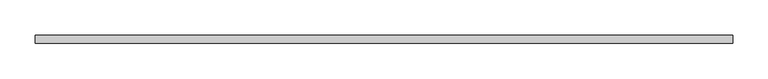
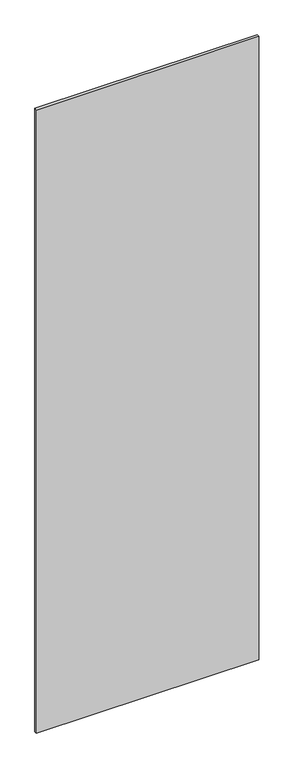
"""IFC4 building model written with IfcOpenShell, lengths in millimetres: plate geometry, VERTI AERO - prosklená výplň : Prosklená výplň."""

from ifc_helpers import new_model, si_unit, origin, origin_with_axes, place, context, project, spatial, polyline, outline, extrude, source, transform, mapped, element, save


def plate_4f8e870f(model_context):
    return source(origin(), model_context, "Body", "SweptSolid", [
        extrude(outline(polyline([(497.5, 6.0), (497.5, -6.0), (-497.5, -6.0), (-497.5, 6.0), (497.5, 6.0)])), origin_with_axes(), (0.0, 0.0, 1.0), 2950.0),
    ])


if __name__ == "__main__":
    model = new_model("IFC4")
    model_context = context("Model", 3, world=origin())
    ifc_project = project(units=[si_unit("LENGTHUNIT", "METRE", prefix="MILLI")], contexts=[model_context])
    site = spatial("IfcSite", under=ifc_project)
    building = spatial("IfcBuilding", under=site)
    placement = place(None, origin())
    plate_shape = plate_4f8e870f(model_context)
    element("IfcPlate", 1, ObjectType="VERTI AERO - prosklená výplň : Prosklená výplň", at=placement, inside=building, context=model_context, shape_type="MappedRepresentation", body=[
        mapped(plate_shape, transform((0.0, 0.0, 0.0), x_axis=(1.0, 0.0, 0.0), y_axis=(0.0, 1.0, 0.0), z_axis=(0.0, 0.0, 1.0))),
    ])
    save(model, "model.ifc")
